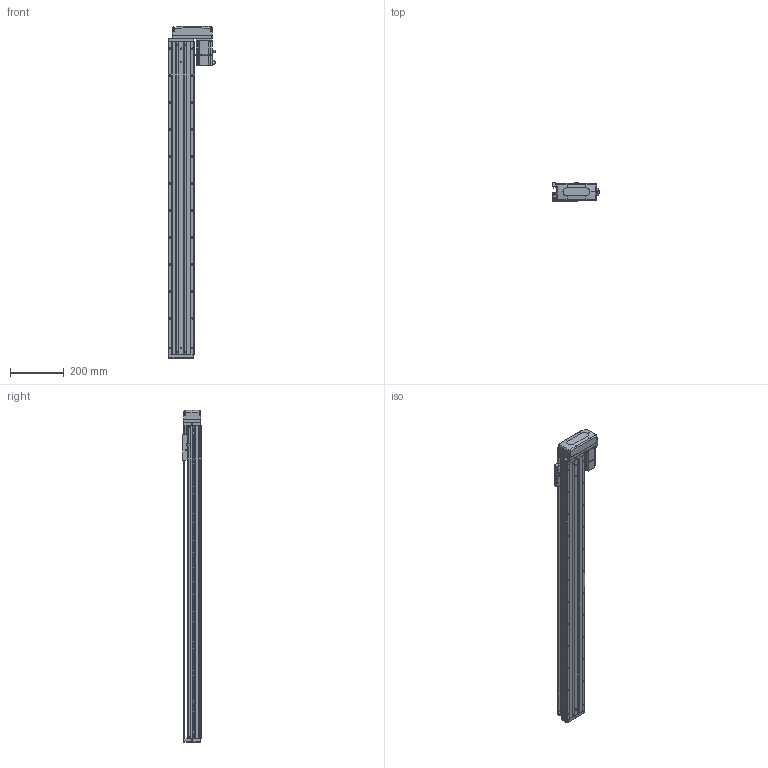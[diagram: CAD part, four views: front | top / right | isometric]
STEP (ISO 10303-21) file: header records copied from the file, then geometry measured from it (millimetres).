
FILE_DESCRIPTION (( 'STEP AP203' ), '1' );
FILE_NAME ('KTHA100-1000-BL-M20-C4L.step', '2022-04-26T01:47:19', ( '微软用户' ), ( '微软中国' ), 'SwSTEP 2.0', 'SolidWorks 2020', '' );
FILE_SCHEMA (( 'CONFIG_CONTROL_DESIGN' ));
Length unit declared in the file: millimetre
Products named in the file (17): KTHA100-004; GBT 70.1-M3℅6; KTHA100-1000-BL-M20-C4L; KTHA100-005; GBT70.1 M5℅16; GB¨uT 70.2-M3¡Á5_M3¡Á6; CTHA60-016; EE_SX911P_R; GBT 70.3-M3℅6; CTHA60-017; _X2_4E0983F1_X0_200W_1; KTHA100-001_1160; CTHA60-021; CTHA86-015-1_CTHA86-015-2; KTHA100-002; GBT77-2000 M3×3; CTHA86-033
Assembly tree (57 placements, depth 2):
  KTHA100-1000-BL-M20-C4L
    KTHA100-001_1160
    KTHA100-002
    KTHA100-004
    KTHA100-005
    GB¨uT 70.2-M3¡Á5_M3¡Á6  x6
    EE_SX911P_R  x3
    CTHA60-017  x3
    CTHA60-021  x2
    GBT77-2000 M3×3  x6
    GBT 70.1-M3℅6  x10
    GBT70.1 M5℅16  x14
    CTHA60-016  x2
    GBT 70.3-M3℅6  x4
    _X2_4E0983F1_X0_200W_1
    CTHA86-015-1_CTHA86-015-2
    CTHA86-033
Bounding box: 177.7 x 68 x 1231 mm (x, y, z)
Volume: 5118489.5 mm3; surface area: 827181.7 mm2
Topology: 60 solids, 60 shells, 2517 faces, 6057 edges, 3760 vertices
Faces by surface type: plane 1292, cylinder 701, cone 317, torus 116, bspline 75, sphere 16
Entity records: 44532 total; most frequent: CARTESIAN_POINT 8896, DIRECTION 6932, ORIENTED_EDGE 6726, EDGE_CURVE 3363, AXIS2_PLACEMENT_3D 2404, LINE 2124, VECTOR 2124, VERTEX_POINT 2120
